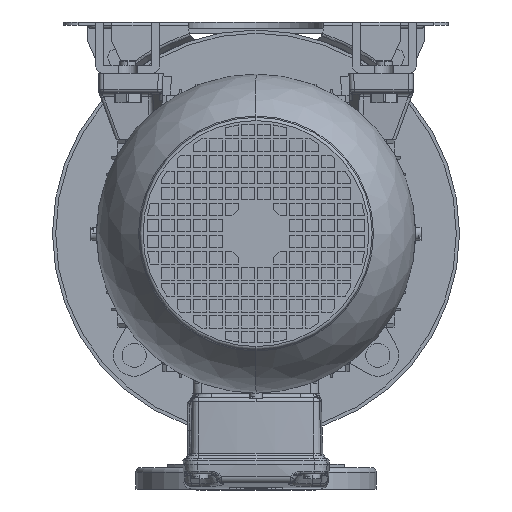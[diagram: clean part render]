
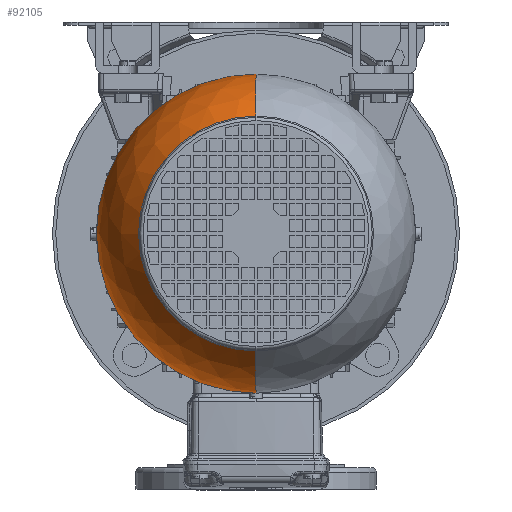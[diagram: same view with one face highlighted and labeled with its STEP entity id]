
A CAD part, front view. The second image highlights one B-rep face of the part: STEP entity #92105.
In plain terms, the highlighted spherical face has radius 99.5 mm.
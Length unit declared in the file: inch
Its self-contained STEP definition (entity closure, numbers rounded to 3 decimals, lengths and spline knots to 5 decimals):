
#2406 = AXIS2_PLACEMENT_3D ( 'NONE', #9679, #56059, #102410 ) ;
#2818 = DIRECTION ( 'NONE',  ( -1., 0., 0. ) ) ;
#3912 = ORIENTED_EDGE ( 'NONE', *, *, #78282, .T. ) ;
#9652 = CIRCLE ( 'NONE', #65527, 2.88544 ) ;
#9679 = CARTESIAN_POINT ( 'NONE',  ( 0., 0., -4.37205 ) ) ;
#10460 = CIRCLE ( 'NONE', #85743, 3.91732 ) ;
#13199 = FACE_OUTER_BOUND ( 'NONE', #84233, .T. ) ;
#15630 = VERTEX_POINT ( 'NONE', #113674 ) ;
#22260 = DIRECTION ( 'NONE',  ( 0., 0., -1. ) ) ;
#23019 = VERTEX_POINT ( 'NONE', #37932 ) ;
#24345 = CARTESIAN_POINT ( 'NONE',  ( 0., 2.88544, -7.02151 ) ) ;
#25365 = CARTESIAN_POINT ( 'NONE',  ( 0., 0., -4.37205 ) ) ;
#31721 = DIRECTION ( 'NONE',  ( 0., 0., 1. ) ) ;
#33658 = CARTESIAN_POINT ( 'NONE',  ( 0., 0., -4.37205 ) ) ;
#37932 = CARTESIAN_POINT ( 'NONE',  ( 0., -2.88544, -7.02151 ) ) ;
#42370 = CARTESIAN_POINT ( 'NONE',  ( 0., 0., -7.02151 ) ) ;
#48473 = CARTESIAN_POINT ( 'NONE',  ( 0., 3.91732, -4.37205 ) ) ;
#56059 = DIRECTION ( 'NONE',  ( 1., 0., 0. ) ) ;
#59425 = DIRECTION ( 'NONE',  ( 0., 1., 0. ) ) ;
#60587 = CARTESIAN_POINT ( 'NONE',  ( 0., 0., -4.37205 ) ) ;
#62721 = VERTEX_POINT ( 'NONE', #24345 ) ;
#65527 = AXIS2_PLACEMENT_3D ( 'NONE', #42370, #31721, #111512 ) ;
#68907 = ORIENTED_EDGE ( 'NONE', *, *, #104596, .F. ) ;
#72440 = DIRECTION ( 'NONE',  ( 0., 1., 0. ) ) ;
#75550 = EDGE_CURVE ( 'NONE', #15630, #84927, #10460, .T. ) ;
#78282 = EDGE_CURVE ( 'NONE', #84927, #62721, #84949, .T. ) ;
#84233 = EDGE_LOOP ( 'NONE', ( #68907, #128311, #3912, #97716 ) ) ;
#84927 = VERTEX_POINT ( 'NONE', #48473 ) ;
#84949 = CIRCLE ( 'NONE', #118868, 3.91732 ) ;
#85743 = AXIS2_PLACEMENT_3D ( 'NONE', #33658, #22260, #59425 ) ;
#88935 = AXIS2_PLACEMENT_3D ( 'NONE', #25365, #130188, #72440 ) ;
#92105 = ADVANCED_FACE ( 'NONE', ( #13199 ), #106654, .T. ) ;
#97716 = ORIENTED_EDGE ( 'NONE', *, *, #135631, .T. ) ;
#102410 = DIRECTION ( 'NONE',  ( 0., 1., 0. ) ) ;
#104596 = EDGE_CURVE ( 'NONE', #15630, #23019, #145600, .T. ) ;
#106654 = SPHERICAL_SURFACE ( 'NONE', #88935, 3.91732 ) ;
#111512 = DIRECTION ( 'NONE',  ( 0., -1., 0. ) ) ;
#113674 = CARTESIAN_POINT ( 'NONE',  ( 0., -3.91732, -4.37205 ) ) ;
#118868 = AXIS2_PLACEMENT_3D ( 'NONE', #60587, #2818, #141874 ) ;
#128311 = ORIENTED_EDGE ( 'NONE', *, *, #75550, .T. ) ;
#130188 = DIRECTION ( 'NONE',  ( 0., 0., 1. ) ) ;
#135631 = EDGE_CURVE ( 'NONE', #62721, #23019, #9652, .T. ) ;
#141874 = DIRECTION ( 'NONE',  ( 0., 0., 1. ) ) ;
#145600 = CIRCLE ( 'NONE', #2406, 3.91732 ) ;
